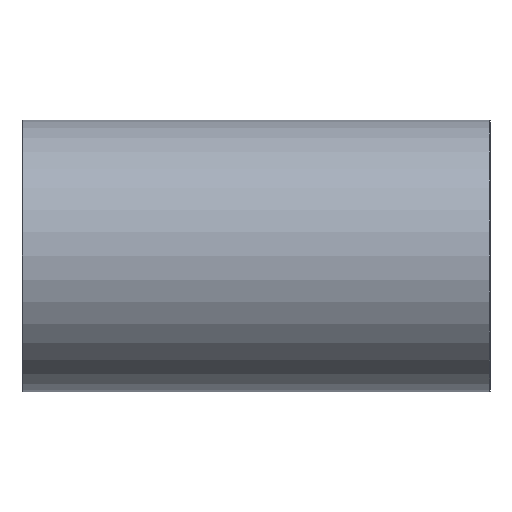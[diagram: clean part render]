
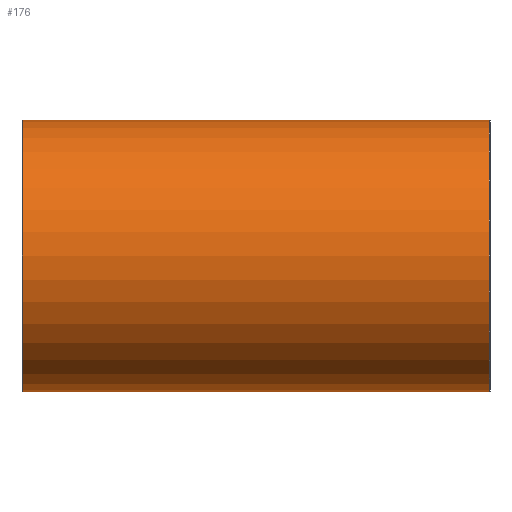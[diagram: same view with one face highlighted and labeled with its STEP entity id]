
A CAD part, front view. The second image highlights one B-rep face of the part: STEP entity #176.
In plain terms, the highlighted cylindrical face has radius 29 mm (diameter 58 mm), a partial arc.
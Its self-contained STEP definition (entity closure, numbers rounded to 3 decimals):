
#173 = CARTESIAN_POINT ( 'NONE',  ( -76.2, 0., 0. ) ) ;
#176 = ADVANCED_FACE ( 'NONE', ( #2313 ), #2562, .T. ) ;
#186 = DIRECTION ( 'NONE',  ( 0., 0., 1. ) ) ;
#242 = DIRECTION ( 'NONE',  ( -1., 0., 0. ) ) ;
#344 = VECTOR ( 'NONE', #453, 1000. ) ;
#449 = CARTESIAN_POINT ( 'NONE',  ( -0.15, 0., -29. ) ) ;
#453 = DIRECTION ( 'NONE',  ( -1., 0., 0. ) ) ;
#466 = CARTESIAN_POINT ( 'NONE',  ( -0.15, 0., 0. ) ) ;
#492 = CARTESIAN_POINT ( 'NONE',  ( -76.2, 0., -29. ) ) ;
#526 = EDGE_CURVE ( 'NONE', #877, #1674, #874, .T. ) ;
#542 = CIRCLE ( 'NONE', #2277, 29. ) ;
#624 = EDGE_CURVE ( 'NONE', #1200, #877, #1539, .T. ) ;
#694 = CARTESIAN_POINT ( 'NONE',  ( -0.15, 0., 29. ) ) ;
#874 = LINE ( 'NONE', #2593, #344 ) ;
#877 = VERTEX_POINT ( 'NONE', #694 ) ;
#890 = AXIS2_PLACEMENT_3D ( 'NONE', #173, #3048, #186 ) ;
#916 = ORIENTED_EDGE ( 'NONE', *, *, #1193, .T. ) ;
#932 = VECTOR ( 'NONE', #242, 1000. ) ;
#947 = CARTESIAN_POINT ( 'NONE',  ( -99.85, 0., 0. ) ) ;
#955 = ORIENTED_EDGE ( 'NONE', *, *, #526, .T. ) ;
#1193 = EDGE_CURVE ( 'NONE', #1674, #1370, #542, .T. ) ;
#1200 = VERTEX_POINT ( 'NONE', #449 ) ;
#1264 = EDGE_CURVE ( 'NONE', #1200, #1370, #2865, .T. ) ;
#1338 = ORIENTED_EDGE ( 'NONE', *, *, #624, .T. ) ;
#1370 = VERTEX_POINT ( 'NONE', #1701 ) ;
#1539 = CIRCLE ( 'NONE', #2221, 29. ) ;
#1674 = VERTEX_POINT ( 'NONE', #2902 ) ;
#1701 = CARTESIAN_POINT ( 'NONE',  ( -99.85, 0., -29. ) ) ;
#2113 = DIRECTION ( 'NONE',  ( 0., 0., 1. ) ) ;
#2221 = AXIS2_PLACEMENT_3D ( 'NONE', #466, #2828, #2843 ) ;
#2277 = AXIS2_PLACEMENT_3D ( 'NONE', #947, #2572, #2113 ) ;
#2313 = FACE_OUTER_BOUND ( 'NONE', #2908, .T. ) ;
#2562 = CYLINDRICAL_SURFACE ( 'NONE', #890, 29. ) ;
#2572 = DIRECTION ( 'NONE',  ( 1., 0., 0. ) ) ;
#2593 = CARTESIAN_POINT ( 'NONE',  ( -76.2, 0., 29. ) ) ;
#2662 = ORIENTED_EDGE ( 'NONE', *, *, #1264, .F. ) ;
#2828 = DIRECTION ( 'NONE',  ( -1., 0., 0. ) ) ;
#2843 = DIRECTION ( 'NONE',  ( 0., 0., -1. ) ) ;
#2865 = LINE ( 'NONE', #492, #932 ) ;
#2902 = CARTESIAN_POINT ( 'NONE',  ( -99.85, 0., 29. ) ) ;
#2908 = EDGE_LOOP ( 'NONE', ( #2662, #1338, #955, #916 ) ) ;
#3048 = DIRECTION ( 'NONE',  ( -1., 0., 0. ) ) ;
